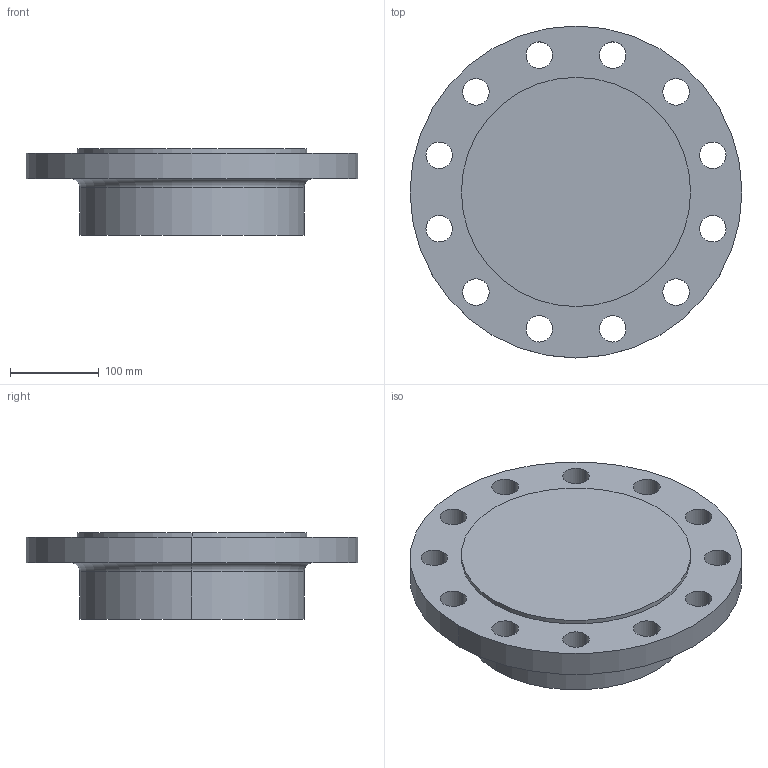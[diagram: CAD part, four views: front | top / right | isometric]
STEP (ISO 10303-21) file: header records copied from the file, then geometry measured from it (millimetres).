
FILE_DESCRIPTION (( 'STEP AP214' ), '1' );
FILE_NAME ('PN40 DN200 Type 21(i) - Type E Face.STEP', '2019-01-05T02:04:54', ( '' ), ( '' ), 'SwSTEP 2.0', 'SolidWorks 2019', '' );
FILE_SCHEMA (( 'AUTOMOTIVE_DESIGN' ));
Length unit declared in the file: millimetre
Products named in the file (1): PN40 DN200 Type 21(i) - Type E Face
Bounding box: 375 x 375 x 98 mm (x, y, z)
Volume: 6480745.2 mm3; surface area: 322649.4 mm2
Topology: 1 solids, 1 shells, 36 faces, 94 edges, 62 vertices
Faces by surface type: cylinder 30, plane 4, torus 2
Entity records: 1228 total; most frequent: DIRECTION 232, CARTESIAN_POINT 193, ORIENTED_EDGE 188, AXIS2_PLACEMENT_3D 101, EDGE_CURVE 94, CIRCLE 64, VERTEX_POINT 62, EDGE_LOOP 62
